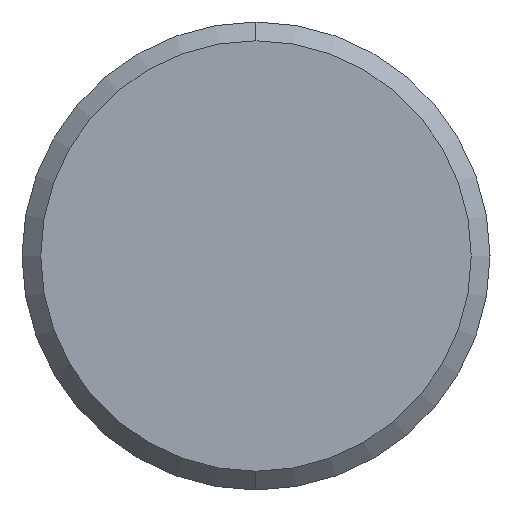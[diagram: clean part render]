
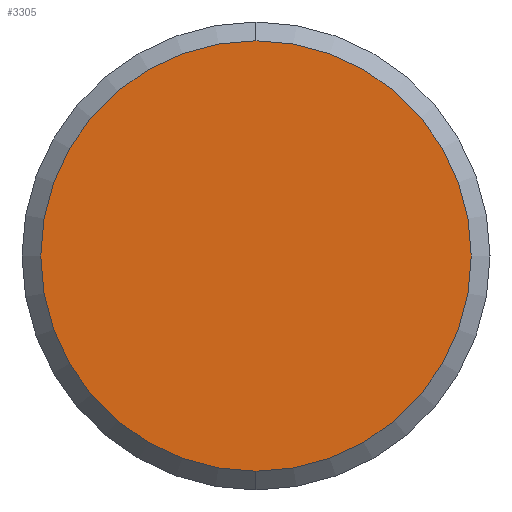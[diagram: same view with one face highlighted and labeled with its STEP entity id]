
A CAD part, left-side view. The second image highlights one B-rep face of the part: STEP entity #3305.
In plain terms, the highlighted planar face has unit normal (-1, 0, 0).
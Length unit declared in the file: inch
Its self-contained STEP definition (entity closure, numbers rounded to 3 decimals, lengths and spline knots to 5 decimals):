
#59 = FACE_OUTER_BOUND ( 'NONE', #1827, .T. ) ;
#176 = AXIS2_PLACEMENT_3D ( 'NONE', #2861, #1683, #288 ) ;
#265 = EDGE_CURVE ( 'NONE', #284, #1927, #3008, .T. ) ;
#284 = VERTEX_POINT ( 'NONE', #1769 ) ;
#288 = DIRECTION ( 'NONE',  ( 0., 0., 1. ) ) ;
#795 = DIRECTION ( 'NONE',  ( 0., 0., 1. ) ) ;
#896 = CIRCLE ( 'NONE', #2942, 0.17235 ) ;
#929 = DIRECTION ( 'NONE',  ( 0., 0., 1. ) ) ;
#985 = EDGE_CURVE ( 'NONE', #1927, #284, #896, .T. ) ;
#1325 = ORIENTED_EDGE ( 'NONE', *, *, #265, .T. ) ;
#1391 = DIRECTION ( 'NONE',  ( -1., 0., 0. ) ) ;
#1683 = DIRECTION ( 'NONE',  ( -1., 0., 0. ) ) ;
#1748 = CARTESIAN_POINT ( 'NONE',  ( 0., 0., 0. ) ) ;
#1769 = CARTESIAN_POINT ( 'NONE',  ( 0., 0., -0.17235 ) ) ;
#1827 = EDGE_LOOP ( 'NONE', ( #1325, #3112 ) ) ;
#1927 = VERTEX_POINT ( 'NONE', #2739 ) ;
#2201 = CARTESIAN_POINT ( 'NONE',  ( 0., 0., 0. ) ) ;
#2282 = DIRECTION ( 'NONE',  ( -1., 0., 0. ) ) ;
#2543 = AXIS2_PLACEMENT_3D ( 'NONE', #1748, #2282, #929 ) ;
#2739 = CARTESIAN_POINT ( 'NONE',  ( 0., 0., 0.17235 ) ) ;
#2861 = CARTESIAN_POINT ( 'NONE',  ( 0., 0., 0. ) ) ;
#2942 = AXIS2_PLACEMENT_3D ( 'NONE', #2201, #1391, #795 ) ;
#3008 = CIRCLE ( 'NONE', #2543, 0.17235 ) ;
#3112 = ORIENTED_EDGE ( 'NONE', *, *, #985, .T. ) ;
#3145 = PLANE ( 'NONE',  #176 ) ;
#3305 = ADVANCED_FACE ( 'NONE', ( #59 ), #3145, .T. ) ;
